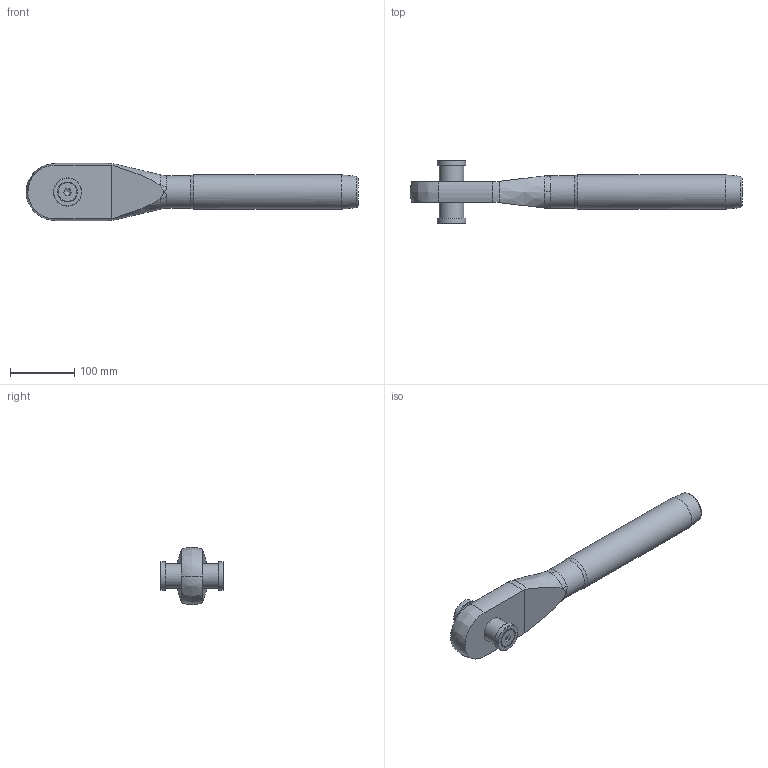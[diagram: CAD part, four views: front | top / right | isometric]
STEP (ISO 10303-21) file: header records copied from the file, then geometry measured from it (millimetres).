
FILE_DESCRIPTION(/* description */ (''),/* implementation_level */ '2;1');
FILE_NAME(/* name */ 'MCC 28_42CrMo4',/* time_stamp */ '2023-05-23T15:41:04+02:00',/* author */ (''),/* organization */ (''),/* preprocessor_version */ 'ST-DEVELOPER v16.5',/* originating_system */ 'Rhino 7.22',/* authorisation */ '');
FILE_SCHEMA (('CONFIG_CONTROL_DESIGN'));
Length unit declared in the file: millimetre
Products named in the file (1): Document
Bounding box: 515.5 x 97.5 x 88.9 mm (x, y, z)
Volume: 1287914.3 mm3; surface area: 127216.1 mm2
Topology: 6 solids, 6 shells, 74 faces, 203 edges, 135 vertices
Faces by surface type: bspline 31, plane 27, cylinder 16
Full cylindrical faces by diameter (mm): 13.835 x2, 16 x2, 17 x2, 29.01 x2, 38 x1, 40 x1, 44 x2, 50.8 x1, 53.4 x1
Entity records: 3255 total; most frequent: CARTESIAN_POINT 2000, ORIENTED_EDGE 386, EDGE_CURVE 193, VERTEX_POINT 135, EDGE_LOOP 84, ADVANCED_FACE 74, FACE_OUTER_BOUND 74, B_SPLINE_CURVE_WITH_KNOTS 64
